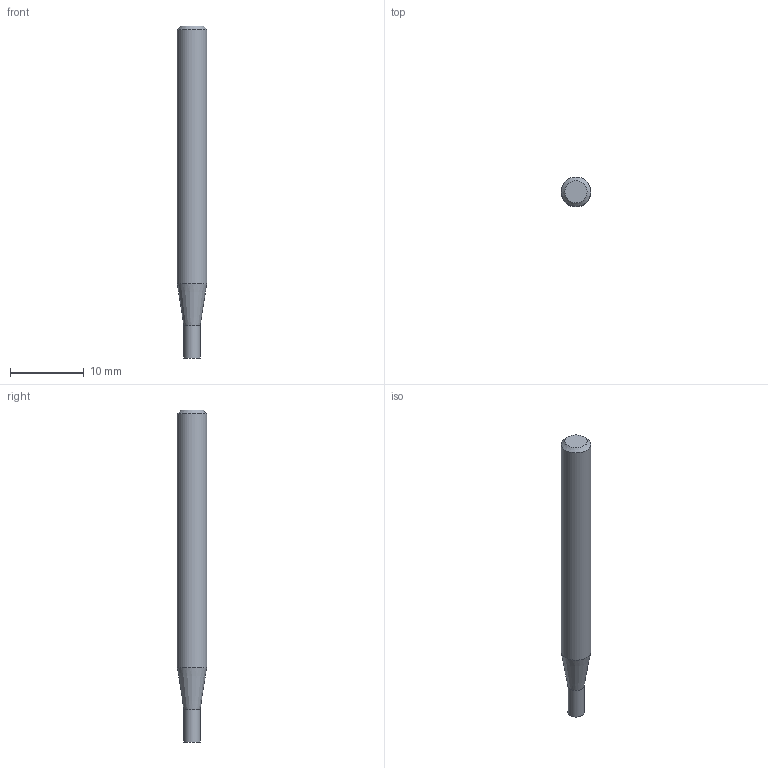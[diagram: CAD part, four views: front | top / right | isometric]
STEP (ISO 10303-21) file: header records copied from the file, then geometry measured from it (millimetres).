
FILE_DESCRIPTION((''),'2;1');
FILE_NAME('C:\Users\nsx150\AppData\Local\Temp\Mastercam 2021\QTW1OOEEGF\TEMP.step','2021-04-08T10:36:36',(''),(''),'STEP Write','Mastercam 2021 ... CNC Software, Inc.','');
FILE_SCHEMA(('AUTOMOTIVE_DESIGN'));
Length unit declared in the file: millimetre
Products named in the file (1): None
Bounding box: 4 x 4 x 45 mm (x, y, z)
Volume: 498.2 mm3; surface area: 545.2 mm2
Topology: 2 solids, 2 shells, 8 faces, 10 edges, 6 vertices
Faces by surface type: plane 4, cylinder 2, cone 2
Full cylindrical faces by diameter (mm): 2.2 x1, 4 x1
Entity records: 190 total; most frequent: DIRECTION 32, CARTESIAN_POINT 22, AXIS2_PLACEMENT_3D 16, ORIENTED_EDGE 12, EDGE_LOOP 12, STYLED_ITEM 11, ADVANCED_FACE 8, VERTEX_POINT 6
